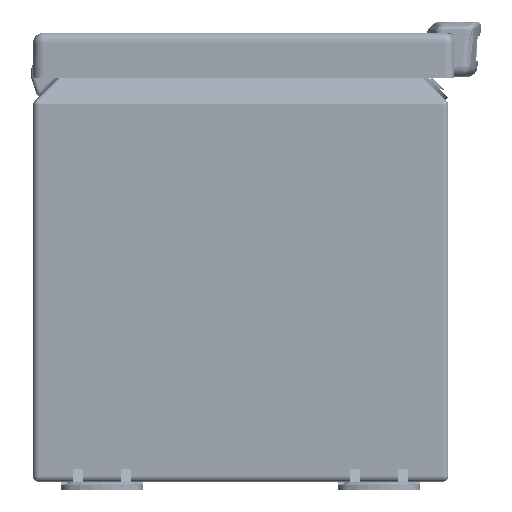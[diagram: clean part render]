
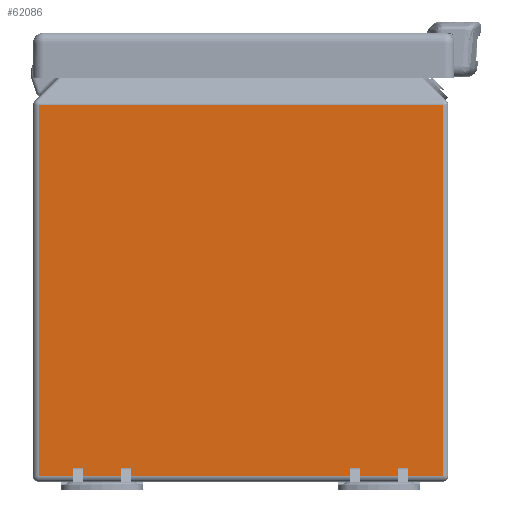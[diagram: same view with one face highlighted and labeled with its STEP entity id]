
A CAD part, front view. The second image highlights one B-rep face of the part: STEP entity #62086.
In plain terms, the highlighted planar face has unit normal (0, -1, 0).
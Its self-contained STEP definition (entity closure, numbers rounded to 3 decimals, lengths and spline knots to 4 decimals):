
#7144=FACE_OUTER_BOUND('',#10942,.T.);
#10942=EDGE_LOOP('',(#41795,#41796,#41797,#41798));
#14989=LINE('',#88566,#20329);
#14991=LINE('',#88579,#20331);
#14992=LINE('',#88583,#20332);
#14993=LINE('',#88584,#20333);
#20329=VECTOR('',#72294,0.3937);
#20331=VECTOR('',#72312,0.3937);
#20332=VECTOR('',#72317,0.3937);
#20333=VECTOR('',#72318,0.3937);
#25677=VERTEX_POINT('',#88563);
#25678=VERTEX_POINT('',#88565);
#25681=VERTEX_POINT('',#88578);
#25682=VERTEX_POINT('',#88582);
#31838=EDGE_CURVE('',#25677,#25678,#14989,.T.);
#31845=EDGE_CURVE('',#25678,#25681,#14991,.T.);
#31847=EDGE_CURVE('',#25682,#25677,#14992,.T.);
#31848=EDGE_CURVE('',#25681,#25682,#14993,.T.);
#41795=ORIENTED_EDGE('',*,*,#31838,.F.);
#41796=ORIENTED_EDGE('',*,*,#31847,.F.);
#41797=ORIENTED_EDGE('',*,*,#31848,.F.);
#41798=ORIENTED_EDGE('',*,*,#31845,.F.);
#60391=PLANE('',#66645);
#62086=ADVANCED_FACE('',(#7144),#60391,.F.);
#66645=AXIS2_PLACEMENT_3D('',#88581,#72315,#72316);
#72294=DIRECTION('',(0.,0.,1.));
#72312=DIRECTION('',(1.,0.,0.));
#72315=DIRECTION('center_axis',(0.,1.,0.));
#72316=DIRECTION('ref_axis',(0.,0.,1.));
#72317=DIRECTION('',(-1.,0.,0.));
#72318=DIRECTION('',(0.,0.,-1.));
#88563=CARTESIAN_POINT('',(-2.916,-4.,0.084));
#88565=CARTESIAN_POINT('',(-2.916,-4.,5.4372));
#88566=CARTESIAN_POINT('',(-2.916,-4.,3.0562));
#88578=CARTESIAN_POINT('',(2.916,-4.,5.4372));
#88579=CARTESIAN_POINT('',(0.,-4.,5.4372));
#88581=CARTESIAN_POINT('Origin',(0.,-4.,2.736));
#88582=CARTESIAN_POINT('',(2.916,-4.,0.084));
#88583=CARTESIAN_POINT('',(0.,-4.,0.084));
#88584=CARTESIAN_POINT('',(2.916,-4.,3.0352));
